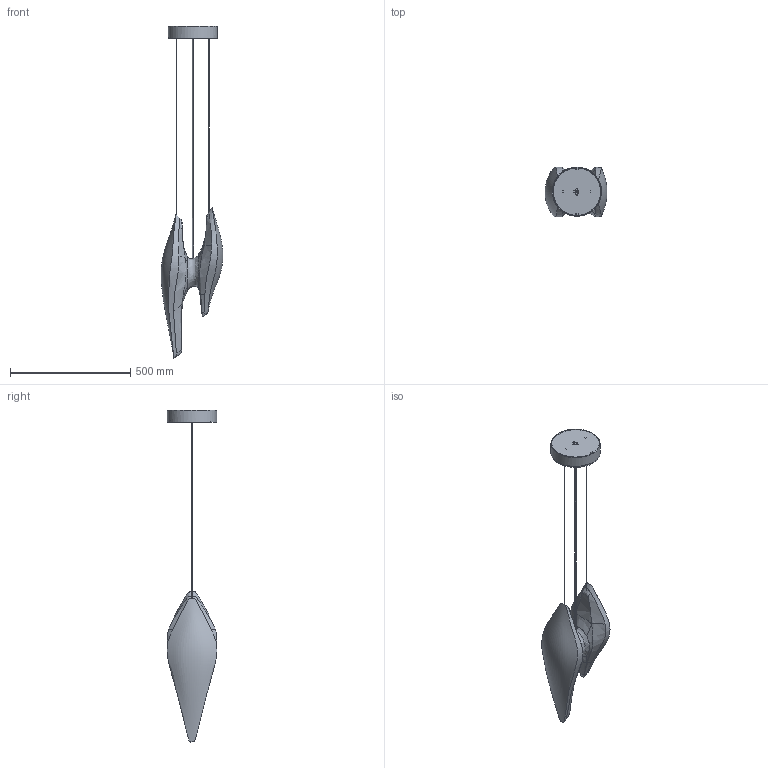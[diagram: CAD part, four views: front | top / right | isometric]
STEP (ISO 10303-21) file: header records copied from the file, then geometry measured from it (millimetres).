
FILE_DESCRIPTION(/* description */ (''),/* implementation_level */ '2;1');
FILE_NAME(/* name */ 'Duna Pendant',/* time_stamp */ '2019-01-22T12:38:26+01:00',/* author */ (''),/* organization */ (''),/* preprocessor_version */ 'ST-DEVELOPER v15',/* originating_system */ '',/* authorisation */ '');
FILE_SCHEMA (('AUTOMOTIVE_DESIGN'));
Length unit declared in the file: millimetre
Products named in the file (1): Document
Bounding box: 256.02 x 206.24 x 1377.8 mm (x, y, z)
Volume: 8857148.7 mm3; surface area: 625345.2 mm2
Topology: 9 solids, 9 shells, 113 faces, 285 edges, 191 vertices
Faces by surface type: bspline 113
Entity records: 83793 total; most frequent: CARTESIAN_POINT 80076, B_SPLINE_CURVE_WITH_KNOTS 686, ORIENTED_EDGE 560, PCURVE 560, DEFINITIONAL_REPRESENTATION 560, SURFACE_CURVE 280, EDGE_CURVE 280, VERTEX_POINT 190
